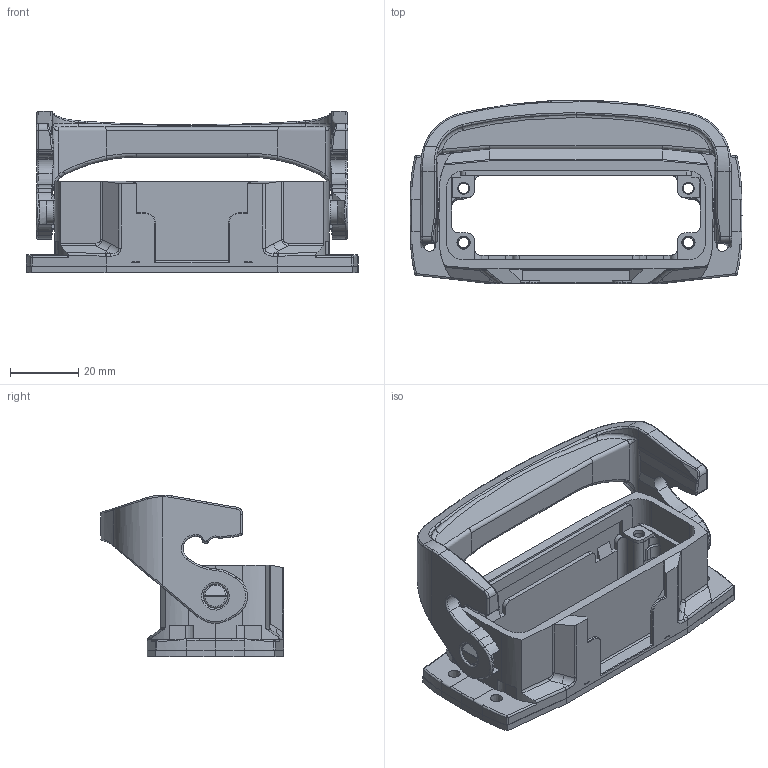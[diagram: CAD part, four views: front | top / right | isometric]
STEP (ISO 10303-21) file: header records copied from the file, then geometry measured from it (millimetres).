
FILE_DESCRIPTION(/* description */ (''),/* implementation_level */ '2;1');
FILE_NAME(/* name */ '100675618ugm000_d.stp',/* time_stamp */ '2022-07-12T13:15:25+02:00',/* author */ (''),/* organization */ (''),/* preprocessor_version */ 'ST-DEVELOPER v16.7',/* originating_system */ 'SIEMENS PLM Software NX 1911',/* authorisation */ '');
FILE_SCHEMA (('AUTOMOTIVE_DESIGN { 1 0 10303 214 3 1 1 1 }'));
Length unit declared in the file: millimetre
Products named in the file (1): 100675618ugm000_d
Bounding box: 97.5 x 53.74 x 47.55 mm (x, y, z)
Volume: 46333.5 mm3; surface area: 26081.8 mm2
Topology: 2 solids, 2 shells, 914 faces, 2466 edges, 1573 vertices
Faces by surface type: plane 526, cylinder 259, bspline 82, cone 16, sphere 16, torus 10, extrusion 5
Full cylindrical faces by diameter (mm): 1.139 x1, 1.346 x1, 3 x4, 3.1 x4, 3.5 x2, 3.9 x2, 7 x2, 7.15 x2
Entity records: 31851 total; most frequent: CARTESIAN_POINT 7490, ORIENTED_EDGE 4834, DIRECTION 4643, EDGE_CURVE 2417, VECTOR 1577, LINE 1572, VERTEX_POINT 1557, AXIS2_PLACEMENT_3D 1533
